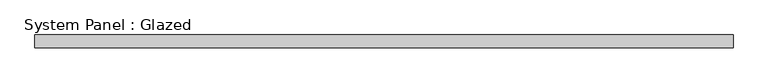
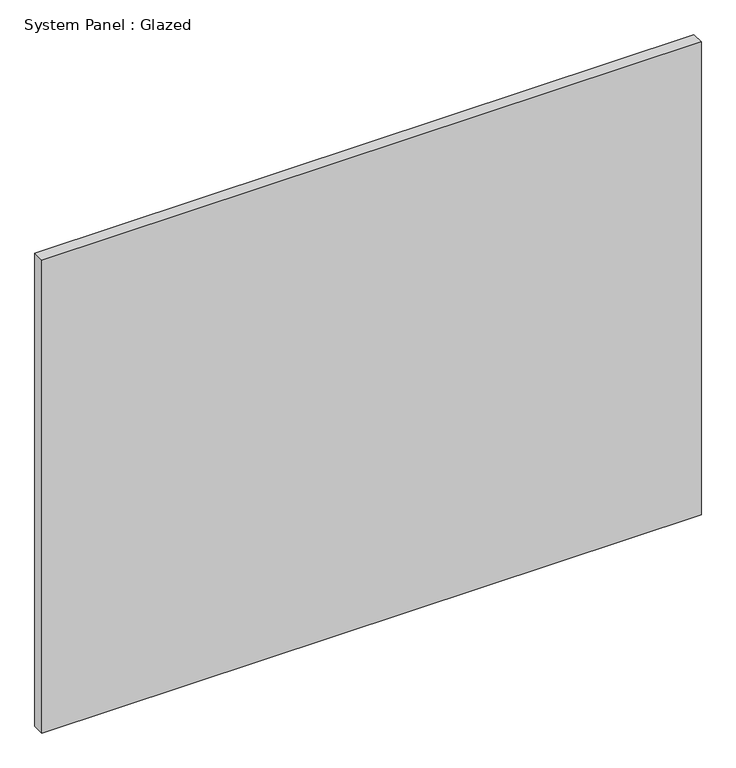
"""IFC4 building model written with IfcOpenShell, lengths in millimetres: plate geometry, System Panel : Glazed."""

from ifc_helpers import new_model, si_unit, origin, origin_with_axes, place, context, project, spatial, polyline, outline, extrude, source, transform, mapped, element, save


def system_panel_glazed_76e23768(model_context):
    return source(origin(), model_context, "Body", "SweptSolid", [
        extrude(outline(polyline([(685.4060559, 19.05), (-685.4060559, 19.05), (-685.4060559, 44.45), (685.4060559, 44.45), (685.4060559, 19.05)])), origin_with_axes(), (0.0, 0.0, 1.0), 1038.7193103),
    ])


if __name__ == "__main__":
    model = new_model("IFC4")
    model_context = context("Model", 3, world=origin())
    ifc_project = project(units=[si_unit("LENGTHUNIT", "METRE", prefix="MILLI")], contexts=[model_context])
    site = spatial("IfcSite", under=ifc_project)
    building = spatial("IfcBuilding", under=site)
    placement = place(None, origin())
    system_panel_glazed_shape = system_panel_glazed_76e23768(model_context)
    element("IfcPlate", 1, ObjectType="System Panel : Glazed", at=placement, inside=building, context=model_context, shape_type="MappedRepresentation", body=[
        mapped(system_panel_glazed_shape, transform((0.0, 0.0, 0.0), x_axis=(1.0, 0.0, 0.0), y_axis=(0.0, 1.0, 0.0), z_axis=(0.0, 0.0, 1.0))),
    ])
    save(model, "model.ifc")
